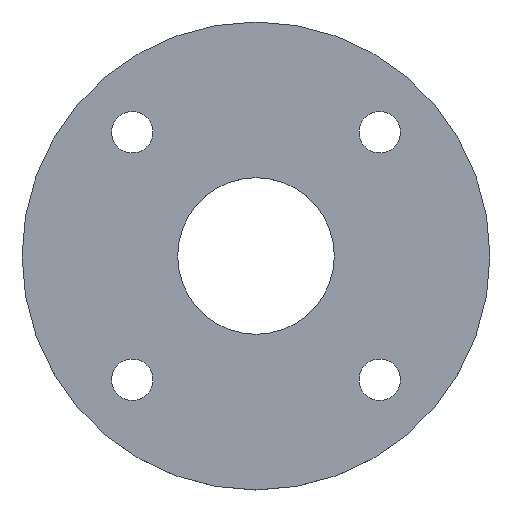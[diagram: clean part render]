
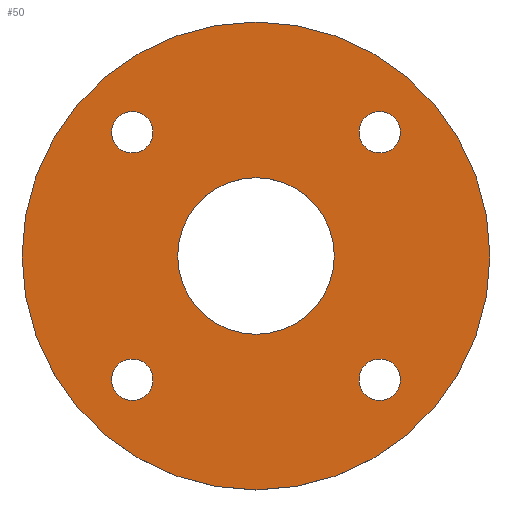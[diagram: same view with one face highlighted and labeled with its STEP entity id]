
A CAD part, top view. The second image highlights one B-rep face of the part: STEP entity #50.
In plain terms, the highlighted planar face has unit normal (0, 0, 1).
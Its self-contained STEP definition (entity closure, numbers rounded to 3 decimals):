
#21 = EDGE_CURVE('',#22,#22,#24,.T.);
#22 = VERTEX_POINT('',#23);
#23 = CARTESIAN_POINT('',(25.4,0.,20.7));
#24 = CIRCLE('',#25,25.4);
#25 = AXIS2_PLACEMENT_3D('',#26,#27,#28);
#26 = CARTESIAN_POINT('',(0.,0.,20.7));
#27 = DIRECTION('',(0.,0.,1.));
#28 = DIRECTION('',(1.,0.,0.));
#50 = ADVANCED_FACE('',(#51,#54,#65,#76,#87,#98),#109,.T.);
#51 = FACE_BOUND('',#52,.T.);
#52 = EDGE_LOOP('',(#53));
#53 = ORIENTED_EDGE('',*,*,#21,.T.);
#54 = FACE_BOUND('',#55,.T.);
#55 = EDGE_LOOP('',(#56));
#56 = ORIENTED_EDGE('',*,*,#57,.F.);
#57 = EDGE_CURVE('',#58,#58,#60,.T.);
#58 = VERTEX_POINT('',#59);
#59 = CARTESIAN_POINT('',(-11.185,-13.435,20.7));
#60 = CIRCLE('',#61,2.25);
#61 = AXIS2_PLACEMENT_3D('',#62,#63,#64);
#62 = CARTESIAN_POINT('',(-13.435,-13.435,20.7));
#63 = DIRECTION('',(0.,0.,1.));
#64 = DIRECTION('',(1.,0.,0.));
#65 = FACE_BOUND('',#66,.T.);
#66 = EDGE_LOOP('',(#67));
#67 = ORIENTED_EDGE('',*,*,#68,.F.);
#68 = EDGE_CURVE('',#69,#69,#71,.T.);
#69 = VERTEX_POINT('',#70);
#70 = CARTESIAN_POINT('',(15.685,-13.435,20.7));
#71 = CIRCLE('',#72,2.25);
#72 = AXIS2_PLACEMENT_3D('',#73,#74,#75);
#73 = CARTESIAN_POINT('',(13.435,-13.435,20.7));
#74 = DIRECTION('',(0.,0.,1.));
#75 = DIRECTION('',(1.,0.,0.));
#76 = FACE_BOUND('',#77,.T.);
#77 = EDGE_LOOP('',(#78));
#78 = ORIENTED_EDGE('',*,*,#79,.F.);
#79 = EDGE_CURVE('',#80,#80,#82,.T.);
#80 = VERTEX_POINT('',#81);
#81 = CARTESIAN_POINT('',(-11.185,13.435,20.7));
#82 = CIRCLE('',#83,2.25);
#83 = AXIS2_PLACEMENT_3D('',#84,#85,#86);
#84 = CARTESIAN_POINT('',(-13.435,13.435,20.7));
#85 = DIRECTION('',(0.,0.,1.));
#86 = DIRECTION('',(1.,0.,0.));
#87 = FACE_BOUND('',#88,.T.);
#88 = EDGE_LOOP('',(#89));
#89 = ORIENTED_EDGE('',*,*,#90,.F.);
#90 = EDGE_CURVE('',#91,#91,#93,.T.);
#91 = VERTEX_POINT('',#92);
#92 = CARTESIAN_POINT('',(8.5,0.,20.7));
#93 = CIRCLE('',#94,8.5);
#94 = AXIS2_PLACEMENT_3D('',#95,#96,#97);
#95 = CARTESIAN_POINT('',(0.,0.,20.7));
#96 = DIRECTION('',(0.,0.,1.));
#97 = DIRECTION('',(1.,0.,0.));
#98 = FACE_BOUND('',#99,.T.);
#99 = EDGE_LOOP('',(#100));
#100 = ORIENTED_EDGE('',*,*,#101,.F.);
#101 = EDGE_CURVE('',#102,#102,#104,.T.);
#102 = VERTEX_POINT('',#103);
#103 = CARTESIAN_POINT('',(15.685,13.435,20.7));
#104 = CIRCLE('',#105,2.25);
#105 = AXIS2_PLACEMENT_3D('',#106,#107,#108);
#106 = CARTESIAN_POINT('',(13.435,13.435,20.7));
#107 = DIRECTION('',(0.,0.,1.));
#108 = DIRECTION('',(1.,0.,0.));
#109 = PLANE('',#110);
#110 = AXIS2_PLACEMENT_3D('',#111,#112,#113);
#111 = CARTESIAN_POINT('',(0.,0.,20.7));
#112 = DIRECTION('',(0.,0.,1.));
#113 = DIRECTION('',(1.,0.,0.));
